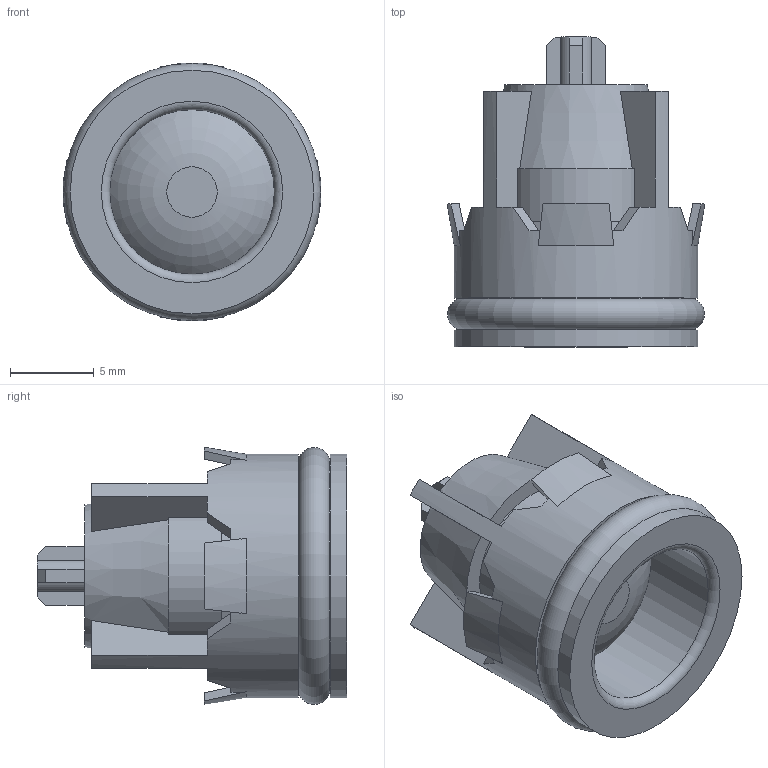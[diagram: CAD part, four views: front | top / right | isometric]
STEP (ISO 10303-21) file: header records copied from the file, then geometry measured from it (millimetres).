
FILE_DESCRIPTION(('STEP AP203'), '1');
FILE_NAME('VT.141.0.04', '', ('UNSPECIFIED'), ('UNSPECIFIED'), 'C3D Converter', 'C3D Toolkit', '');
FILE_SCHEMA(('CONFIG_CONTROL_DESIGN'));
Length unit declared in the file: millimetre
Products named in the file (1): ВР.494149.001.000 СБ
Bounding box: 15.32 x 18.44 x 15.32 mm (x, y, z)
Volume: 1504.4 mm3; surface area: 1540.5 mm2
Topology: 1 solids, 1 shells, 102 faces, 300 edges, 200 vertices
Faces by surface type: plane 70, cylinder 20, cone 9, torus 3
Full cylindrical faces by diameter (mm): 3.8 x1, 8.5 x1, 9.8 x1, 10.7 x1, 14 x2, 14.5 x2
Entity records: 3524 total; most frequent: CARTESIAN_POINT 815, ORIENTED_EDGE 576, DIRECTION 546, EDGE_CURVE 288, AXIS2_PLACEMENT_3D 203, VERTEX_POINT 200, LINE 140, VECTOR 140
